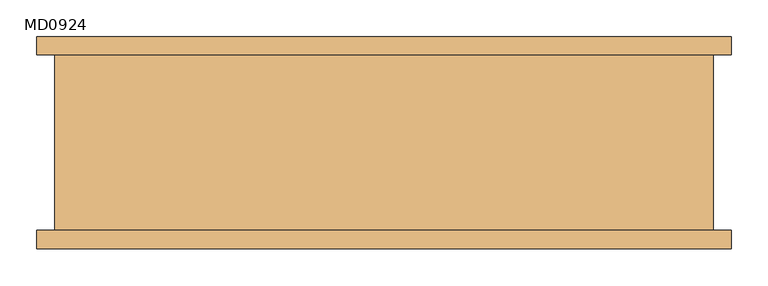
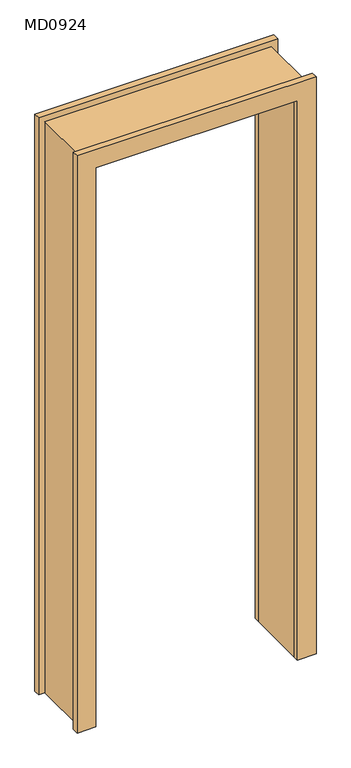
"""IFC4 building model written with IfcOpenShell, lengths in millimetres: door geometry, 门洞 : MD0924."""

from ifc_helpers import new_model, si_unit, frame, origin, place, context, project, spatial, polyline, outline, extrude, source, transform, mapped, element, save


def md0924_8bf075f8(model_context):
    return source(origin(), model_context, "Body", "SweptSolid", [
        extrude(outline(polyline([(2400.0, -450.0), (0.0, -450.0), (0.0, -400.0), (2350.0, -400.0), (2350.0, 400.0), (0.0, 400.0), (0.0, 450.0), (2400.0, 450.0), (2400.0, -450.0)])), frame((0.0, -120.0, 0.0), z_axis=(0.0, 1.0, 0.0), x_axis=(0.0, 0.0, 1.0)), (0.0, 0.0, 1.0), 240.0),
        extrude(outline(polyline([(2425.0, -475.0), (0.0, -475.0), (0.0, -400.0), (2350.0, -400.0), (2350.0, 400.0), (0.0, 400.0), (0.0, 475.0), (2425.0, 475.0), (2425.0, -475.0)])), frame((0.0, 120.0, 0.0), z_axis=(0.0, 1.0, 0.0), x_axis=(0.0, 0.0, 1.0)), (0.0, 0.0, 1.0), 25.0),
        extrude(outline(polyline([(2425.0, -475.0), (0.0, -475.0), (0.0, -400.0), (2350.0, -400.0), (2350.0, 400.0), (0.0, 400.0), (0.0, 475.0), (2425.0, 475.0), (2425.0, -475.0)])), frame((0.0, -145.0, 0.0), z_axis=(0.0, 1.0, 0.0), x_axis=(0.0, 0.0, 1.0)), (0.0, 0.0, 1.0), 25.0),
    ])


if __name__ == "__main__":
    model = new_model("IFC4")
    model_context = context("Model", 3, world=origin())
    ifc_project = project(units=[si_unit("LENGTHUNIT", "METRE", prefix="MILLI")], contexts=[model_context])
    site = spatial("IfcSite", under=ifc_project)
    building = spatial("IfcBuilding", under=site)
    placement = place(None, origin())
    md0924_shape = md0924_8bf075f8(model_context)
    element("IfcDoor", 1, ObjectType="门洞 : MD0924", at=placement, inside=building, context=model_context, shape_type="MappedRepresentation", body=[
        mapped(md0924_shape, transform((0.0, 0.0, 0.0), x_axis=(1.0, 0.0, 0.0), y_axis=(0.0, 1.0, 0.0), z_axis=(0.0, 0.0, 1.0))),
    ])
    save(model, "model.ifc")
